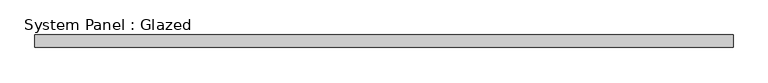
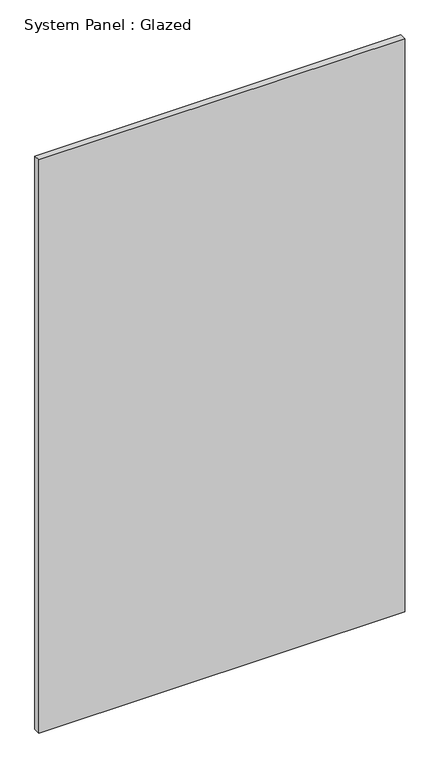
"""IFC4 building model written with IfcOpenShell, lengths in millimetres: plate geometry, System Panel : Glazed."""

from ifc_helpers import new_model, si_unit, origin, origin_with_axes, place, context, project, spatial, polyline, outline, extrude, source, transform, mapped, element, save


def system_panel_glazed_f771dc8d(model_context):
    return source(origin(), model_context, "Body", "SweptSolid", [
        extrude(outline(polyline([(707.3194444, 19.05), (-707.3194444, 19.05), (-707.3194444, 44.45), (707.3194444, 44.45), (707.3194444, 19.05)])), origin_with_axes(), (0.0, 0.0, 1.0), 2343.15),
    ])


if __name__ == "__main__":
    model = new_model("IFC4")
    model_context = context("Model", 3, world=origin())
    ifc_project = project(units=[si_unit("LENGTHUNIT", "METRE", prefix="MILLI")], contexts=[model_context])
    site = spatial("IfcSite", under=ifc_project)
    building = spatial("IfcBuilding", under=site)
    placement = place(None, origin())
    system_panel_glazed_shape = system_panel_glazed_f771dc8d(model_context)
    element("IfcPlate", 1, ObjectType="System Panel : Glazed", at=placement, inside=building, context=model_context, shape_type="MappedRepresentation", body=[
        mapped(system_panel_glazed_shape, transform((0.0, 0.0, 0.0), x_axis=(1.0, 0.0, 0.0), y_axis=(0.0, 1.0, 0.0), z_axis=(0.0, 0.0, 1.0))),
    ])
    save(model, "model.ifc")
